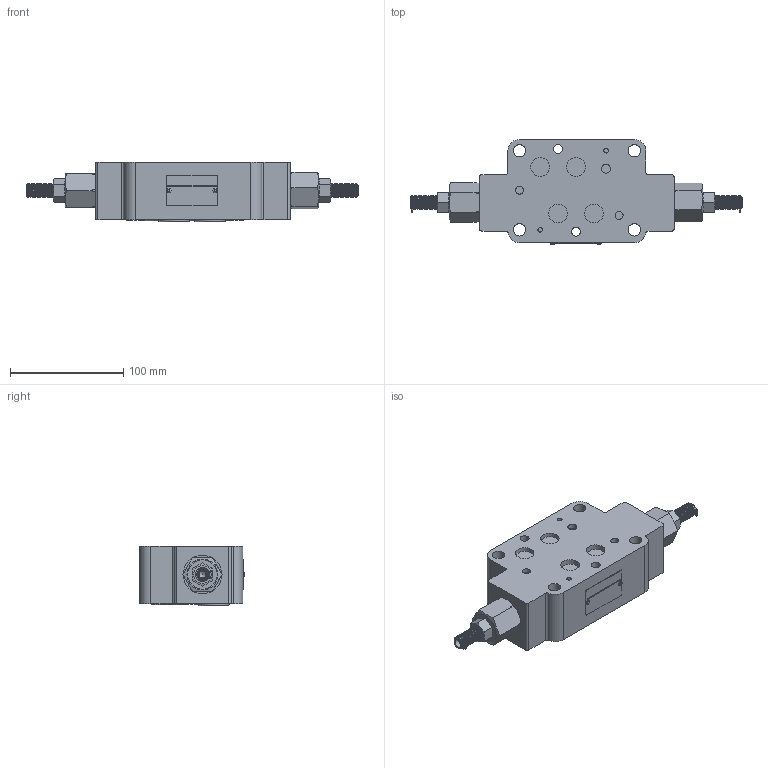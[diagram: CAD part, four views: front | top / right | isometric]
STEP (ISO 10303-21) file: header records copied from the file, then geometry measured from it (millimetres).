
FILE_DESCRIPTION(/* description */ (''),/* implementation_level */ '2;1');
FILE_NAME(/* name */ 'Z2FS16-3XJ叠加式单向节流阀.prt.stp',/* time_stamp */ '2022-03-30T20:05:45+08:00',/* author */ (''),/* organization */ (''),/* preprocessor_version */ 'ST-DEVELOPER v16.7',/* originating_system */ 'SIEMENS PLM Software NX 12.0',/* authorisation */ '');
FILE_SCHEMA (('AUTOMOTIVE_DESIGN { 1 0 10303 214 3 1 1 1 }'));
Length unit declared in the file: millimetre
Products named in the file (1): Z2FS16-3XJ叠加式单向节流阀
Bounding box: 293.67 x 92.89 x 52.62 mm (x, y, z)
Volume: 749312.8 mm3; surface area: 104189.2 mm2
Topology: 23 solids, 37 shells, 418 faces, 971 edges, 636 vertices
Faces by surface type: plane 192, cylinder 140, cone 29, torus 25, extrusion 20, bspline 12
Full cylindrical faces by diameter (mm): 1.5 x4, 1.8 x2, 2 x2, 2.5 x2, 4 x2, 6 x2, 7 x2, 7.5 x2, 8 x3, 9.6 x2, 10 x2, 10.2 x2, 10.5 x2, 11 x4, 13.7 x3, 16.5 x4, 17.5 x2, 25.64 x2, 26 x2, 26.4 x2, 34 x2
Entity records: 22321 total; most frequent: CARTESIAN_POINT 13167, DIRECTION 1746, ORIENTED_EDGE 1686, EDGE_CURVE 843, AXIS2_PLACEMENT_3D 682, VERTEX_POINT 617, EDGE_LOOP 547, ADVANCED_FACE 418
